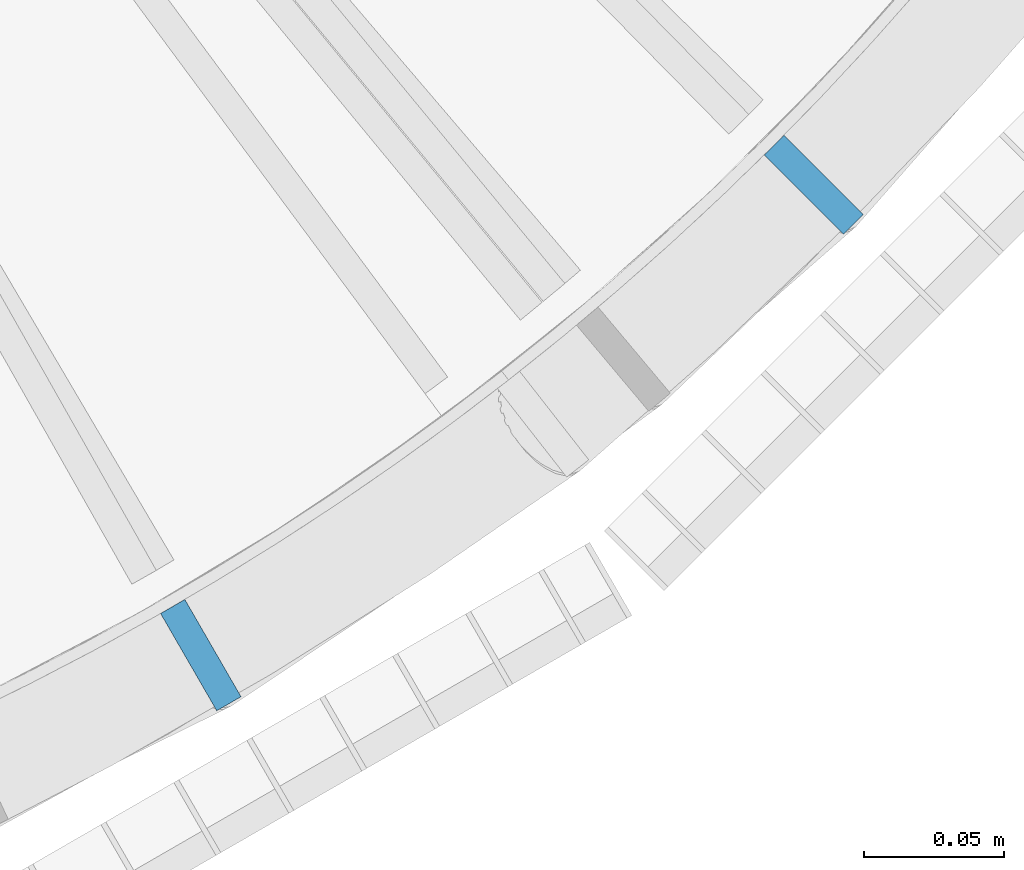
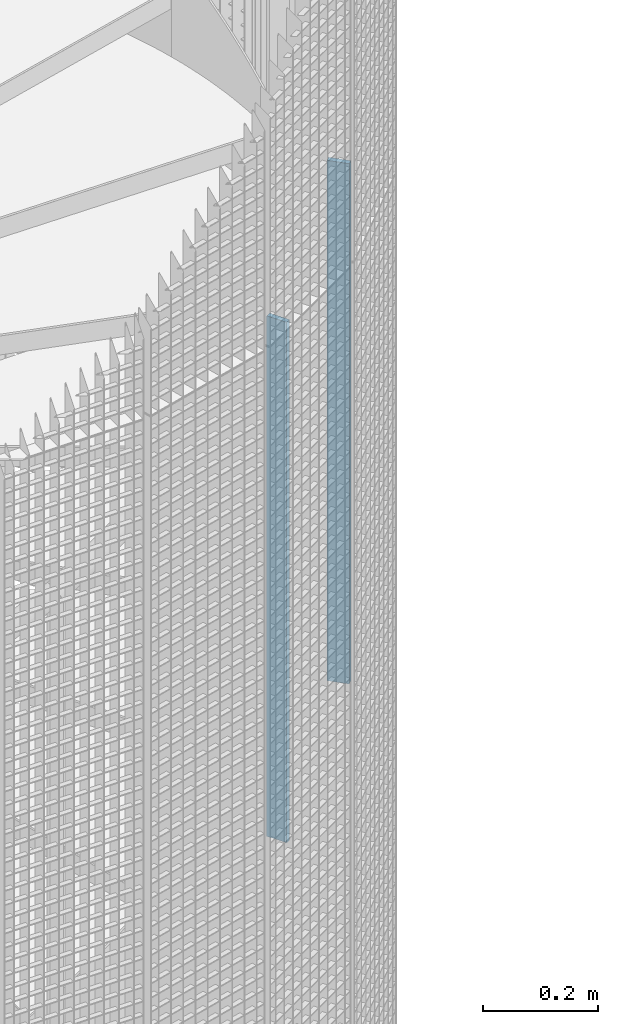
# One storey, part 11 of 1183: 2 columns, 2 elements without a shape of their own.
"""IFC2X3 building model written with IfcOpenShell, lengths in millimetres."""

from ifc_helpers import new_model, si_unit, frame, origin_with_axes, origin_2d_with_axis, place, context, subcontext, project, spatial, rectangle, extrude, material, type_object, element, aggregate, save


model = new_model("IFC2X3")

# Units and contexts
model_context = context("Model", 3, precision=1e-05, world=origin_with_axes())
body_context = subcontext(model_context, "Body", "Model", "MODEL_VIEW")
ifc_project = project(units=[si_unit("LENGTHUNIT", "METRE", prefix="MILLI"), si_unit("AREAUNIT", "SQUARE_METRE"), si_unit("VOLUMEUNIT", "CUBIC_METRE"), si_unit("MASSUNIT", "GRAM", prefix="KILO"), si_unit("TIMEUNIT", "SECOND"), si_unit("PLANEANGLEUNIT", "RADIAN"), si_unit("SOLIDANGLEUNIT", "STERADIAN"), si_unit("THERMODYNAMICTEMPERATUREUNIT", "DEGREE_CELSIUS"), si_unit("LUMINOUSINTENSITYUNIT", "LUMEN")], contexts=[model_context])

# Site, building, storey
site_placement = place(None, origin_with_axes())
site = spatial("IfcSite", under=ifc_project, at=site_placement, Name="Undefined", CompositionType="ELEMENT")
building_placement = place(site_placement, origin_with_axes())
building = spatial("IfcBuilding", under=site, at=building_placement, Name="Undefined", CompositionType="ELEMENT")
storey_placement = place(building_placement, origin_with_axes())
storey = spatial("IfcBuildingStorey", under=building, at=storey_placement, Name="Undefined", CompositionType="ELEMENT", Elevation=0.0)

# Assembly, column
assembly_1_placement = place(storey_placement, origin_with_axes())
assembly_1 = element("IfcElementAssembly", 1, at=assembly_1_placement, inside=storey, Name="MONTANT", AssemblyPlace="NOTDEFINED", PredefinedType="NOTDEFINED")
ifc_material = material(Name="STEEL/S235JR")
column_type = type_object("IfcColumnType", Name="PL10*40", PredefinedType="NOTDEFINED")
column_1_placement = place(assembly_1_placement, frame((527.000000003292, -912.790775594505, 1854.24), z_axis=(0.0, 0.0, 1.0), x_axis=(-0.49999999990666, 0.866025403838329, 0.0)))
column_1 = element("IfcColumn", 2, at=column_1_placement, type_object=column_type, material=ifc_material, Name="MONTANT", context=body_context, shape_type="SweptSolid", body=[
    extrude(rectangle(XDim=10.0, YDim=40.0, at=origin_2d_with_axis()), frame((0.0, 0.0, 1100.0), z_axis=(0.0, 0.0, -1.0), x_axis=(0.0, 1.0, 0.0)), (0.0, 0.0, 1.0), 1100.0),
])
aggregate(assembly_1, [column_1])

assembly_2_placement = place(storey_placement, origin_with_axes())
assembly_2 = element("IfcElementAssembly", 3, at=assembly_2_placement, inside=storey, Name="MONTANT", AssemblyPlace="NOTDEFINED", PredefinedType="NOTDEFINED")
column_2_placement = place(assembly_2_placement, frame((745.29054737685, -745.290547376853, 2008.76), z_axis=(0.0, 0.0, 1.0), x_axis=(-0.707106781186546, 0.707106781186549, 0.0)))
column_2 = element("IfcColumn", 4, at=column_2_placement, type_object=column_type, material=ifc_material, Name="MONTANT", context=body_context, shape_type="SweptSolid", body=[
    extrude(rectangle(XDim=10.0, YDim=40.0, at=origin_2d_with_axis()), frame((0.0, 0.0, 1100.0), z_axis=(0.0, 0.0, -1.0), x_axis=(0.0, 1.0, 0.0)), (0.0, 0.0, 1.0), 1100.0),
])
aggregate(assembly_2, [column_2])

save(model, "model.ifc")
